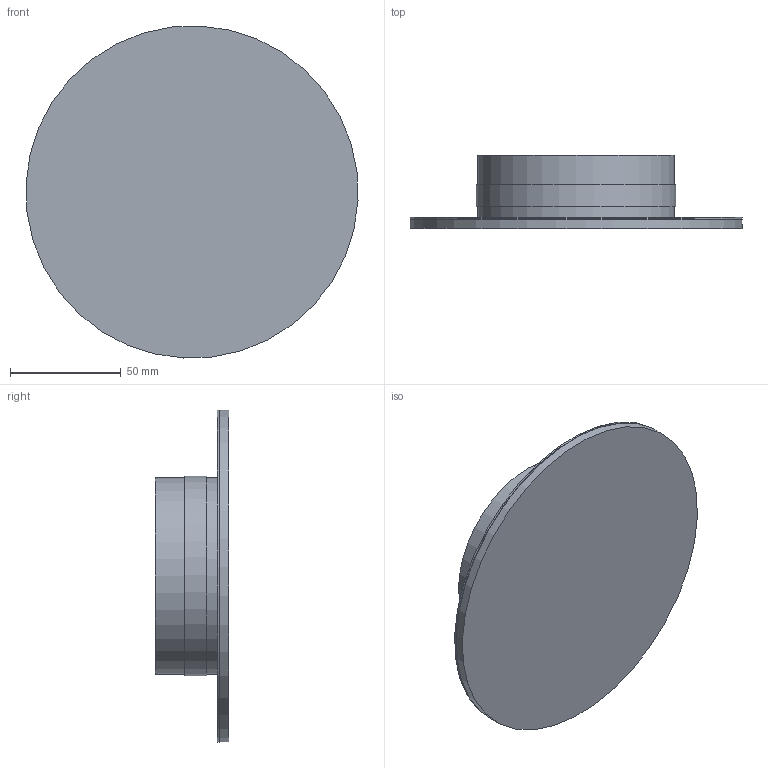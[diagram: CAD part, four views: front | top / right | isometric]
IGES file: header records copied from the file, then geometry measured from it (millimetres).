
Start section: SolidWorks IGES file using analytic representation for surfaces
Global section: file name: X:\PRODUKT\Modele 3D_WWW\_KOLEKCJE WWW\RING-LED\RING-LED-S-MIRROR-10276\RING-LED-S-MIRROR-10276.IGS; native system: SolidWorks 2021; preprocessor: SolidWorks 2021; author: gabriela.tworek; date: 221025.115016; units: millimetre
Bounding box: 149.8 x 33 x 149.8 mm (x, y, z)
Surface area: 99117.1 mm2 (no closed solid volume)
Topology: 0 solids, 0 shells, 15 faces, 39 edges, 36 vertices
Faces by surface type: bspline 10, revolution 5
